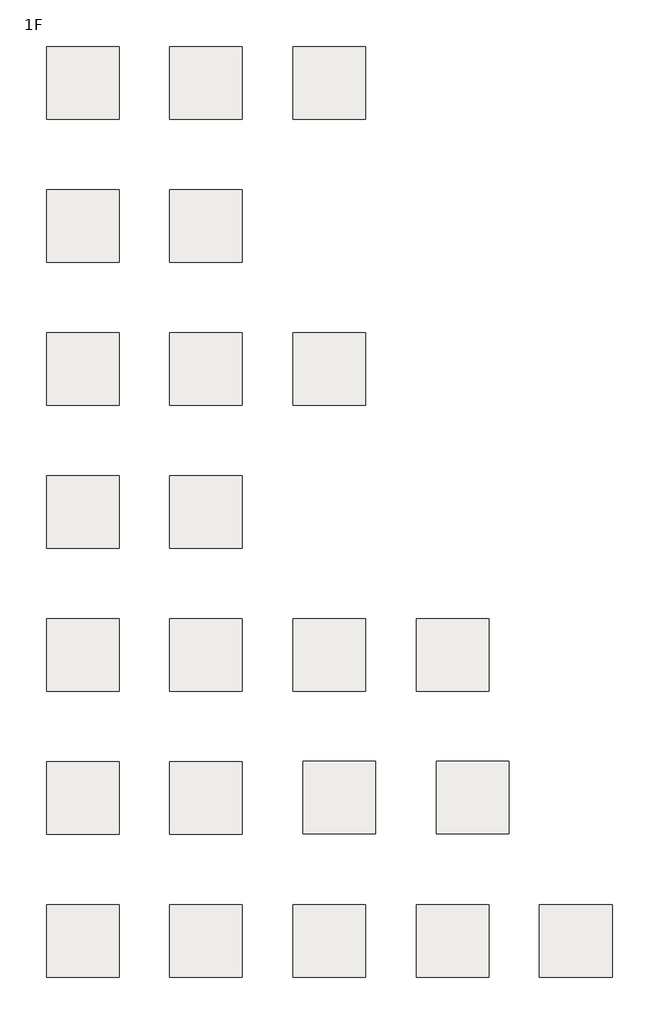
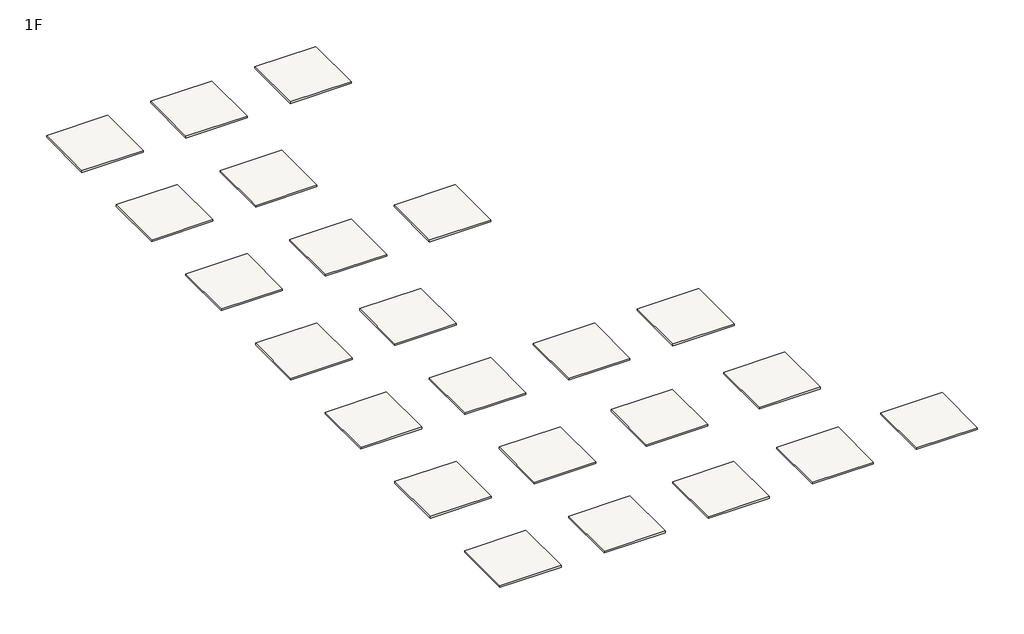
# One storey: 23 slabs.
"""IFC4 building model written with IfcOpenShell, lengths in millimetres."""

from ifc_helpers import new_model, si_unit, frame, origin, place, context, project, spatial, polyline, outline, extrude, element, save

model = new_model("IFC4")

# Units and contexts
model_context = context("Model", 3, world=origin())
ifc_project = project(units=[si_unit("LENGTHUNIT", "METRE", prefix="MILLI")], contexts=[model_context])

# Site, building, storey
site = spatial("IfcSite", under=ifc_project)
building = spatial("IfcBuilding", under=site)
storey = spatial("IfcBuildingStorey", under=building, Name="1F", Elevation=0.0)

# Slabs
placement = place(None, origin())
element("IfcSlab", 1, ObjectType="PF011_침투성방수 2", at=placement, inside=storey, context=model_context, shape_type="SweptSolid", body=[
    extrude(outline(polyline([(-15249.7051711, 41.566255), (-18749.7051711, 41.566255), (-18749.7051711, 3541.566255), (-15249.7051711, 3541.566255), (-15249.7051711, 41.566255)])), frame((0.0, 0.0, -100.0), z_axis=(0.0, 0.0, 1.0), x_axis=(1.0, 0.0, 0.0)), (0.0, 0.0, 1.0), 100.0),
])
element("IfcSlab", 2, ObjectType="PF021_우레탄도막방수(비노출)", at=placement, inside=storey, context=model_context, shape_type="SweptSolid", body=[
    extrude(outline(polyline([(-9299.7051711, 41.566255), (-12799.7051711, 41.566255), (-12799.7051711, 3541.566255), (-9299.7051711, 3541.566255), (-9299.7051711, 41.566255)])), frame((0.0, 0.0, -100.0), z_axis=(0.0, 0.0, 1.0), x_axis=(1.0, 0.0, 0.0)), (0.0, 0.0, 1.0), 100.0),
])
element("IfcSlab", 3, ObjectType="PF001_시멘트 액체방수 1종", at=placement, inside=storey, context=model_context, shape_type="SweptSolid", body=[
    extrude(outline(polyline([(-21199.7051711, 41.566255), (-24699.7051711, 41.566255), (-24699.7051711, 3541.566255), (-21199.7051711, 3541.566255), (-21199.7051711, 41.566255)])), frame((0.0, 0.0, -100.0), z_axis=(0.0, 0.0, 1.0), x_axis=(1.0, 0.0, 0.0)), (0.0, 0.0, 1.0), 100.0),
])
element("IfcSlab", 4, ObjectType="IF 011_경질우레탄폼(2종1호)", at=placement, inside=storey, context=model_context, shape_type="SweptSolid", body=[
    extrude(outline(polyline([(-15249.7051711, -6858.433745), (-18749.7051711, -6858.433745), (-18749.7051711, -3358.433745), (-15249.7051711, -3358.433745), (-15249.7051711, -6858.433745)])), frame((0.0, 0.0, -100.0), z_axis=(0.0, 0.0, 1.0), x_axis=(1.0, 0.0, 0.0)), (0.0, 0.0, 1.0), 100.0),
])
element("IfcSlab", 5, ObjectType="IF 001_PF보드", at=placement, inside=storey, context=model_context, shape_type="SweptSolid", body=[
    extrude(outline(polyline([(-21199.7051711, -6858.433745), (-24699.7051711, -6858.433745), (-24699.7051711, -3358.433745), (-21199.7051711, -3358.433745), (-21199.7051711, -6858.433745)])), frame((0.0, 0.0, -100.0), z_axis=(0.0, 0.0, 1.0), x_axis=(1.0, 0.0, 0.0)), (0.0, 0.0, 1.0), 100.0),
])
element("IfcSlab", 6, ObjectType="F043_Y_도기질타일 100mm_(100)_100mm", at=placement, inside=storey, context=model_context, shape_type="SweptSolid", body=[
    extrude(outline(polyline([(-15249.7051711, -13758.433745), (-18749.7051711, -13758.433745), (-18749.7051711, -10258.433745), (-15249.7051711, -10258.433745), (-15249.7051711, -13758.433745)])), frame((0.0, 0.0, -100.0), z_axis=(0.0, 0.0, 1.0), x_axis=(1.0, 0.0, 0.0)), (0.0, 0.0, 1.0), 100.0),
])
element("IfcSlab", 7, ObjectType="F032_Y_자기질타일 100mm_(100)_100mm", at=placement, inside=storey, context=model_context, shape_type="SweptSolid", body=[
    extrude(outline(polyline([(-21199.7051711, -13758.433745), (-24699.7051711, -13758.433745), (-24699.7051711, -10258.433745), (-21199.7051711, -10258.433745), (-21199.7051711, -13758.433745)])), frame((0.0, 0.0, -100.0), z_axis=(0.0, 0.0, 1.0), x_axis=(1.0, 0.0, 0.0)), (0.0, 0.0, 1.0), 100.0),
])
element("IfcSlab", 8, ObjectType="F048_Y_비닐계 타일 100mm_(100)_100mm", at=placement, inside=storey, context=model_context, shape_type="SweptSolid", body=[
    extrude(outline(polyline([(-9299.7051711, -13758.433745), (-12799.7051711, -13758.433745), (-12799.7051711, -10258.433745), (-9299.7051711, -10258.433745), (-9299.7051711, -13758.433745)])), frame((0.0, 0.0, -100.0), z_axis=(0.0, 0.0, 1.0), x_axis=(1.0, 0.0, 0.0)), (0.0, 0.0, 1.0), 100.0),
])
element("IfcSlab", 9, ObjectType="F011_걸레받이용 석재타일", at=placement, inside=storey, context=model_context, shape_type="SweptSolid", body=[
    extrude(outline(polyline([(-8825.9075926, -34434.312108), (-12325.9075926, -34434.312108), (-12325.9075926, -30934.312108), (-8825.9075926, -30934.312108), (-8825.9075926, -34434.312108)])), frame((0.0, 0.0, -100.0), z_axis=(0.0, 0.0, 1.0), x_axis=(1.0, 0.0, 0.0)), (0.0, 0.0, 1.0), 100.0),
])
element("IfcSlab", 10, ObjectType="F 001_친환경수성페인트", at=placement, inside=storey, context=model_context, shape_type="SweptSolid", body=[
    extrude(outline(polyline([(-21199.7051711, -20658.433745), (-24699.7051711, -20658.433745), (-24699.7051711, -17158.433745), (-21199.7051711, -17158.433745), (-21199.7051711, -20658.433745)])), frame((0.0, 0.0, -100.0), z_axis=(0.0, 0.0, 1.0), x_axis=(1.0, 0.0, 0.0)), (0.0, 0.0, 1.0), 100.0),
])
element("IfcSlab", 11, ObjectType="F012_세라믹페인트", at=placement, inside=storey, context=model_context, shape_type="SweptSolid", body=[
    extrude(outline(polyline([(-15249.7051711, -20658.433745), (-18749.7051711, -20658.433745), (-18749.7051711, -17158.433745), (-15249.7051711, -17158.433745), (-15249.7051711, -20658.433745)])), frame((0.0, 0.0, -100.0), z_axis=(0.0, 0.0, 1.0), x_axis=(1.0, 0.0, 0.0)), (0.0, 0.0, 1.0), 100.0),
])
element("IfcSlab", 12, ObjectType="F018_Y_시멘트몰탈 100mm_(100)_100mm", at=placement, inside=storey, context=model_context, shape_type="SweptSolid", body=[
    extrude(outline(polyline([(-21199.7051711, -41358.433745), (-24699.7051711, -41358.433745), (-24699.7051711, -37858.433745), (-21199.7051711, -37858.433745), (-21199.7051711, -41358.433745)])), frame((0.0, 0.0, -100.0), z_axis=(0.0, 0.0, 1.0), x_axis=(1.0, 0.0, 0.0)), (0.0, 0.0, 1.0), 100.0),
])
element("IfcSlab", 13, ObjectType="F022_하지재", at=placement, inside=storey, context=model_context, shape_type="SweptSolid", body=[
    extrude(outline(polyline([(-9299.7051711, -41358.433745), (-12799.7051711, -41358.433745), (-12799.7051711, -37858.433745), (-9299.7051711, -37858.433745), (-9299.7051711, -41358.433745)])), frame((0.0, 0.0, -100.0), z_axis=(0.0, 0.0, 1.0), x_axis=(1.0, 0.0, 0.0)), (0.0, 0.0, 1.0), 100.0),
])
element("IfcSlab", 14, ObjectType="F021_석고보드", at=placement, inside=storey, context=model_context, shape_type="SweptSolid", body=[
    extrude(outline(polyline([(-15249.7051711, -41358.433745), (-18749.7051711, -41358.433745), (-18749.7051711, -37858.433745), (-15249.7051711, -37858.433745), (-15249.7051711, -41358.433745)])), frame((0.0, 0.0, -100.0), z_axis=(0.0, 0.0, 1.0), x_axis=(1.0, 0.0, 0.0)), (0.0, 0.0, 1.0), 100.0),
])
element("IfcSlab", 15, ObjectType="F023_공기층", at=placement, inside=storey, context=model_context, shape_type="SweptSolid", body=[
    extrude(outline(polyline([(-3349.7051711, -41358.433745), (-6849.7051711, -41358.433745), (-6849.7051711, -37858.433745), (-3349.7051711, -37858.433745), (-3349.7051711, -41358.433745)])), frame((0.0, 0.0, -100.0), z_axis=(0.0, 0.0, 1.0), x_axis=(1.0, 0.0, 0.0)), (0.0, 0.0, 1.0), 100.0),
])
element("IfcSlab", 16, ObjectType="F024_경량철골천정틀", at=placement, inside=storey, context=model_context, shape_type="SweptSolid", body=[
    extrude(outline(polyline([(2600.2948289, -41358.433745), (-899.7051711, -41358.433745), (-899.7051711, -37858.433745), (2600.2948289, -37858.433745), (2600.2948289, -41358.433745)])), frame((0.0, 0.0, -100.0), z_axis=(0.0, 0.0, 1.0), x_axis=(1.0, 0.0, 0.0)), (0.0, 0.0, 1.0), 100.0),
])
element("IfcSlab", 17, ObjectType="C011_열경화성수지 천정재", at=placement, inside=storey, context=model_context, shape_type="SweptSolid", body=[
    extrude(outline(polyline([(-15249.7051711, -27558.433745), (-18749.7051711, -27558.433745), (-18749.7051711, -24058.433745), (-15249.7051711, -24058.433745), (-15249.7051711, -27558.433745)])), frame((0.0, 0.0, -100.0), z_axis=(0.0, 0.0, 1.0), x_axis=(1.0, 0.0, 0.0)), (0.0, 0.0, 1.0), 100.0),
])
element("IfcSlab", 18, ObjectType="F 001_친환경수성페인트", at=placement, inside=storey, context=model_context, shape_type="SweptSolid", body=[
    extrude(outline(polyline([(-21199.7051711, -27558.433745), (-24699.7051711, -27558.433745), (-24699.7051711, -24058.433745), (-21199.7051711, -24058.433745), (-21199.7051711, -27558.433745)])), frame((0.0, 0.0, -100.0), z_axis=(0.0, 0.0, 1.0), x_axis=(1.0, 0.0, 0.0)), (0.0, 0.0, 1.0), 100.0),
])
element("IfcSlab", 19, ObjectType="C021_무기질계 뿜칠", at=placement, inside=storey, context=model_context, shape_type="SweptSolid", body=[
    extrude(outline(polyline([(-9299.7051711, -27558.433745), (-12799.7051711, -27558.433745), (-12799.7051711, -24058.433745), (-9299.7051711, -24058.433745), (-9299.7051711, -27558.433745)])), frame((0.0, 0.0, -100.0), z_axis=(0.0, 0.0, 1.0), x_axis=(1.0, 0.0, 0.0)), (0.0, 0.0, 1.0), 100.0),
])
element("IfcSlab", 20, ObjectType="F051_AL후레싱(두겁)", at=placement, inside=storey, context=model_context, shape_type="SweptSolid", body=[
    extrude(outline(polyline([(-15249.7051711, -34458.433745), (-18749.7051711, -34458.433745), (-18749.7051711, -30958.433745), (-15249.7051711, -30958.433745), (-15249.7051711, -34458.433745)])), frame((0.0, 0.0, -100.0), z_axis=(0.0, 0.0, 1.0), x_axis=(1.0, 0.0, 0.0)), (0.0, 0.0, 1.0), 100.0),
])
element("IfcSlab", 21, ObjectType="F041_화강석", at=placement, inside=storey, context=model_context, shape_type="SweptSolid", body=[
    extrude(outline(polyline([(-21199.7051711, -34458.433745), (-24699.7051711, -34458.433745), (-24699.7051711, -30958.433745), (-21199.7051711, -30958.433745), (-21199.7051711, -34458.433745)])), frame((0.0, 0.0, -100.0), z_axis=(0.0, 0.0, 1.0), x_axis=(1.0, 0.0, 0.0)), (0.0, 0.0, 1.0), 100.0),
])
element("IfcSlab", 22, ObjectType="C031_SM천정재", at=placement, inside=storey, context=model_context, shape_type="SweptSolid", body=[
    extrude(outline(polyline([(-3349.7051711, -27558.433745), (-6849.7051711, -27558.433745), (-6849.7051711, -24058.433745), (-3349.7051711, -24058.433745), (-3349.7051711, -27558.433745)])), frame((0.0, 0.0, -100.0), z_axis=(0.0, 0.0, 1.0), x_axis=(1.0, 0.0, 0.0)), (0.0, 0.0, 1.0), 100.0),
])
element("IfcSlab", 23, ObjectType="F061_제주판석", at=placement, inside=storey, context=model_context, shape_type="SweptSolid", body=[
    extrude(outline(polyline([(-2385.9075926, -34434.312108), (-5885.9075926, -34434.312108), (-5885.9075926, -30934.312108), (-2385.9075926, -30934.312108), (-2385.9075926, -34434.312108)])), frame((0.0, 0.0, -100.0), z_axis=(0.0, 0.0, 1.0), x_axis=(1.0, 0.0, 0.0)), (0.0, 0.0, 1.0), 100.0),
])

save(model, "model.ifc")
